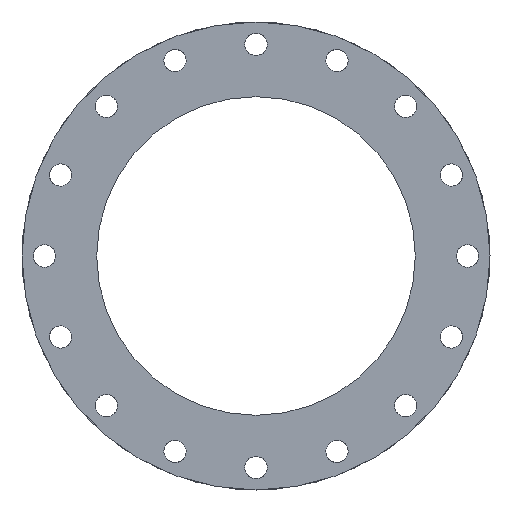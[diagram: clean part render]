
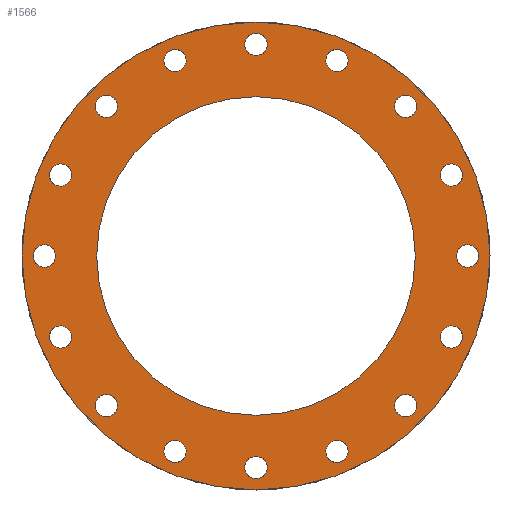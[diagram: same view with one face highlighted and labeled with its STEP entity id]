
A CAD part, left-side view. The second image highlights one B-rep face of the part: STEP entity #1566.
In plain terms, the highlighted planar face has unit normal (-1, 0, 0).
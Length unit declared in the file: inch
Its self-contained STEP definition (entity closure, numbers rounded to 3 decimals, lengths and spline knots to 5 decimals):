
#135=CARTESIAN_POINT('',(-4.,4.28127,10.3359));
#136=VERTEX_POINT('',#135);
#137=CARTESIAN_POINT('',(-4.,4.06601,9.81622));
#138=DIRECTION('',(1.,0.0,0.0));
#139=DIRECTION('',(0.0,-0.383,-0.924));
#140=AXIS2_PLACEMENT_3D('',#137,#138,#139);
#141=CIRCLE('',#140,0.5625);
#142=EDGE_CURVE('',#136,#136,#141,.T.);
#163=CARTESIAN_POINT('',(-4.,7.91076,7.91076));
#164=VERTEX_POINT('',#163);
#165=CARTESIAN_POINT('',(-4.,7.51301,7.51301));
#166=DIRECTION('',(1.,0.0,0.0));
#167=DIRECTION('',(0.0,-0.707,-0.707));
#168=AXIS2_PLACEMENT_3D('',#165,#166,#167);
#169=CIRCLE('',#168,0.5625);
#170=EDGE_CURVE('',#164,#164,#169,.T.);
#191=CARTESIAN_POINT('',(-4.,10.3359,4.28127));
#192=VERTEX_POINT('',#191);
#193=CARTESIAN_POINT('',(-4.,9.81622,4.06601));
#194=DIRECTION('',(1.,0.0,0.0));
#195=DIRECTION('',(0.0,-0.924,-0.383));
#196=AXIS2_PLACEMENT_3D('',#193,#194,#195);
#197=CIRCLE('',#196,0.5625);
#198=EDGE_CURVE('',#192,#192,#197,.T.);
#219=CARTESIAN_POINT('',(-4.,11.1875,0.));
#220=VERTEX_POINT('',#219);
#221=CARTESIAN_POINT('',(-4.,10.625,0.));
#222=DIRECTION('',(1.0,0.0,0.0));
#223=DIRECTION('',(0.0,-1.0,0.0));
#224=AXIS2_PLACEMENT_3D('',#221,#222,#223);
#225=CIRCLE('',#224,0.5625);
#226=EDGE_CURVE('',#220,#220,#225,.T.);
#247=CARTESIAN_POINT('',(-4.,10.3359,-4.28127));
#248=VERTEX_POINT('',#247);
#249=CARTESIAN_POINT('',(-4.,9.81622,-4.06601));
#250=DIRECTION('',(1.,0.0,0.0));
#251=DIRECTION('',(0.0,-0.924,0.383));
#252=AXIS2_PLACEMENT_3D('',#249,#250,#251);
#253=CIRCLE('',#252,0.5625);
#254=EDGE_CURVE('',#248,#248,#253,.T.);
#275=CARTESIAN_POINT('',(-4.,7.91076,-7.91076));
#276=VERTEX_POINT('',#275);
#277=CARTESIAN_POINT('',(-4.,7.51301,-7.51301));
#278=DIRECTION('',(1.0,0.0,0.0));
#279=DIRECTION('',(0.0,-0.707,0.707));
#280=AXIS2_PLACEMENT_3D('',#277,#278,#279);
#281=CIRCLE('',#280,0.5625);
#282=EDGE_CURVE('',#276,#276,#281,.T.);
#303=CARTESIAN_POINT('',(-4.,4.28127,-10.3359));
#304=VERTEX_POINT('',#303);
#305=CARTESIAN_POINT('',(-4.,4.06601,-9.81622));
#306=DIRECTION('',(1.,0.0,0.0));
#307=DIRECTION('',(0.0,-0.383,0.924));
#308=AXIS2_PLACEMENT_3D('',#305,#306,#307);
#309=CIRCLE('',#308,0.5625);
#310=EDGE_CURVE('',#304,#304,#309,.T.);
#331=CARTESIAN_POINT('',(-4.,0.,-11.1875));
#332=VERTEX_POINT('',#331);
#333=CARTESIAN_POINT('',(-4.,0.,-10.625));
#334=DIRECTION('',(1.0,0.0,0.0));
#335=DIRECTION('',(0.0,0.0,1.0));
#336=AXIS2_PLACEMENT_3D('',#333,#334,#335);
#337=CIRCLE('',#336,0.5625);
#338=EDGE_CURVE('',#332,#332,#337,.T.);
#359=CARTESIAN_POINT('',(-4.,-4.28127,-10.3359));
#360=VERTEX_POINT('',#359);
#361=CARTESIAN_POINT('',(-4.,-4.06601,-9.81622));
#362=DIRECTION('',(1.,0.0,0.0));
#363=DIRECTION('',(0.0,0.383,0.924));
#364=AXIS2_PLACEMENT_3D('',#361,#362,#363);
#365=CIRCLE('',#364,0.5625);
#366=EDGE_CURVE('',#360,#360,#365,.T.);
#387=CARTESIAN_POINT('',(-4.,-7.91076,-7.91076));
#388=VERTEX_POINT('',#387);
#389=CARTESIAN_POINT('',(-4.,-7.51301,-7.51301));
#390=DIRECTION('',(1.0,0.0,0.0));
#391=DIRECTION('',(0.0,0.707,0.707));
#392=AXIS2_PLACEMENT_3D('',#389,#390,#391);
#393=CIRCLE('',#392,0.5625);
#394=EDGE_CURVE('',#388,#388,#393,.T.);
#415=CARTESIAN_POINT('',(-4.,-10.3359,-4.28127));
#416=VERTEX_POINT('',#415);
#417=CARTESIAN_POINT('',(-4.,-9.81622,-4.06601));
#418=DIRECTION('',(1.0,0.0,0.0));
#419=DIRECTION('',(0.0,0.924,0.383));
#420=AXIS2_PLACEMENT_3D('',#417,#418,#419);
#421=CIRCLE('',#420,0.5625);
#422=EDGE_CURVE('',#416,#416,#421,.T.);
#443=CARTESIAN_POINT('',(-4.,-11.1875,0.));
#444=VERTEX_POINT('',#443);
#445=CARTESIAN_POINT('',(-4.,-10.625,0.));
#446=DIRECTION('',(1.0,0.0,0.0));
#447=DIRECTION('',(0.0,1.0,0.0));
#448=AXIS2_PLACEMENT_3D('',#445,#446,#447);
#449=CIRCLE('',#448,0.5625);
#450=EDGE_CURVE('',#444,#444,#449,.T.);
#471=CARTESIAN_POINT('',(-4.,-10.3359,4.28127));
#472=VERTEX_POINT('',#471);
#473=CARTESIAN_POINT('',(-4.,-9.81622,4.06601));
#474=DIRECTION('',(1.,0.0,0.0));
#475=DIRECTION('',(0.0,0.924,-0.383));
#476=AXIS2_PLACEMENT_3D('',#473,#474,#475);
#477=CIRCLE('',#476,0.5625);
#478=EDGE_CURVE('',#472,#472,#477,.T.);
#499=CARTESIAN_POINT('',(-4.,-7.91076,7.91076));
#500=VERTEX_POINT('',#499);
#501=CARTESIAN_POINT('',(-4.,-7.51301,7.51301));
#502=DIRECTION('',(1.0,0.0,0.0));
#503=DIRECTION('',(0.0,0.707,-0.707));
#504=AXIS2_PLACEMENT_3D('',#501,#502,#503);
#505=CIRCLE('',#504,0.5625);
#506=EDGE_CURVE('',#500,#500,#505,.T.);
#527=CARTESIAN_POINT('',(-4.,-4.28127,10.3359));
#528=VERTEX_POINT('',#527);
#529=CARTESIAN_POINT('',(-4.,-4.06601,9.81622));
#530=DIRECTION('',(1.,0.0,0.0));
#531=DIRECTION('',(0.0,0.383,-0.924));
#532=AXIS2_PLACEMENT_3D('',#529,#530,#531);
#533=CIRCLE('',#532,0.5625);
#534=EDGE_CURVE('',#528,#528,#533,.T.);
#555=CARTESIAN_POINT('',(-4.,0.,11.1875));
#556=VERTEX_POINT('',#555);
#557=CARTESIAN_POINT('',(-4.,0.0,10.625));
#558=DIRECTION('',(1.0,0.0,0.0));
#559=DIRECTION('',(0.0,0.0,-1.0));
#560=AXIS2_PLACEMENT_3D('',#557,#558,#559);
#561=CIRCLE('',#560,0.5625);
#562=EDGE_CURVE('',#556,#556,#561,.T.);
#1031=CARTESIAN_POINT('',(-4.,11.75,0.0));
#1032=VERTEX_POINT('',#1031);
#1033=CARTESIAN_POINT('',(-4.,0.0,0.0));
#1034=DIRECTION('',(1.0,0.0,0.0));
#1035=DIRECTION('',(0.0,1.0,0.0));
#1036=AXIS2_PLACEMENT_3D('',#1033,#1034,#1035);
#1037=CIRCLE('',#1036,11.75);
#1038=EDGE_CURVE('',#1032,#1032,#1037,.T.);
#1492=CARTESIAN_POINT('',(-4.0,8.0,0.0));
#1493=VERTEX_POINT('',#1492);
#1494=CARTESIAN_POINT('',(-4.0,0.0,0.0));
#1495=DIRECTION('',(1.0,0.0,0.0));
#1496=DIRECTION('',(0.0,1.0,0.0));
#1497=AXIS2_PLACEMENT_3D('',#1494,#1495,#1496);
#1498=CIRCLE('',#1497,8.0);
#1499=EDGE_CURVE('',#1493,#1493,#1498,.T.);
#1507=CARTESIAN_POINT('',(-4.,9.875,0.0));
#1508=DIRECTION('',(-1.0,0.0,0.0));
#1509=DIRECTION('',(0.0,0.0,1.0));
#1510=AXIS2_PLACEMENT_3D('',#1507,#1508,#1509);
#1511=PLANE('',#1510);
#1512=ORIENTED_EDGE('',*,*,#1038,.F.);
#1513=EDGE_LOOP('',(#1512));
#1514=FACE_OUTER_BOUND('',#1513,.T.);
#1515=ORIENTED_EDGE('',*,*,#142,.T.);
#1516=EDGE_LOOP('',(#1515));
#1517=FACE_BOUND('',#1516,.T.);
#1518=ORIENTED_EDGE('',*,*,#170,.T.);
#1519=EDGE_LOOP('',(#1518));
#1520=FACE_BOUND('',#1519,.T.);
#1521=ORIENTED_EDGE('',*,*,#198,.T.);
#1522=EDGE_LOOP('',(#1521));
#1523=FACE_BOUND('',#1522,.T.);
#1524=ORIENTED_EDGE('',*,*,#226,.T.);
#1525=EDGE_LOOP('',(#1524));
#1526=FACE_BOUND('',#1525,.T.);
#1527=ORIENTED_EDGE('',*,*,#254,.T.);
#1528=EDGE_LOOP('',(#1527));
#1529=FACE_BOUND('',#1528,.T.);
#1530=ORIENTED_EDGE('',*,*,#282,.T.);
#1531=EDGE_LOOP('',(#1530));
#1532=FACE_BOUND('',#1531,.T.);
#1533=ORIENTED_EDGE('',*,*,#310,.T.);
#1534=EDGE_LOOP('',(#1533));
#1535=FACE_BOUND('',#1534,.T.);
#1536=ORIENTED_EDGE('',*,*,#338,.T.);
#1537=EDGE_LOOP('',(#1536));
#1538=FACE_BOUND('',#1537,.T.);
#1539=ORIENTED_EDGE('',*,*,#366,.T.);
#1540=EDGE_LOOP('',(#1539));
#1541=FACE_BOUND('',#1540,.T.);
#1542=ORIENTED_EDGE('',*,*,#394,.T.);
#1543=EDGE_LOOP('',(#1542));
#1544=FACE_BOUND('',#1543,.T.);
#1545=ORIENTED_EDGE('',*,*,#422,.T.);
#1546=EDGE_LOOP('',(#1545));
#1547=FACE_BOUND('',#1546,.T.);
#1548=ORIENTED_EDGE('',*,*,#450,.T.);
#1549=EDGE_LOOP('',(#1548));
#1550=FACE_BOUND('',#1549,.T.);
#1551=ORIENTED_EDGE('',*,*,#478,.T.);
#1552=EDGE_LOOP('',(#1551));
#1553=FACE_BOUND('',#1552,.T.);
#1554=ORIENTED_EDGE('',*,*,#506,.T.);
#1555=EDGE_LOOP('',(#1554));
#1556=FACE_BOUND('',#1555,.T.);
#1557=ORIENTED_EDGE('',*,*,#534,.T.);
#1558=EDGE_LOOP('',(#1557));
#1559=FACE_BOUND('',#1558,.T.);
#1560=ORIENTED_EDGE('',*,*,#562,.T.);
#1561=EDGE_LOOP('',(#1560));
#1562=FACE_BOUND('',#1561,.T.);
#1563=ORIENTED_EDGE('',*,*,#1499,.T.);
#1564=EDGE_LOOP('',(#1563));
#1565=FACE_BOUND('',#1564,.T.);
#1566=ADVANCED_FACE('',(#1514,#1517,#1520,#1523,#1526,#1529,#1532,#1535,#1538,#1541,#1544,#1547,#1550,#1553,#1556,#1559,#1562,#1565),#1511,.T.);
